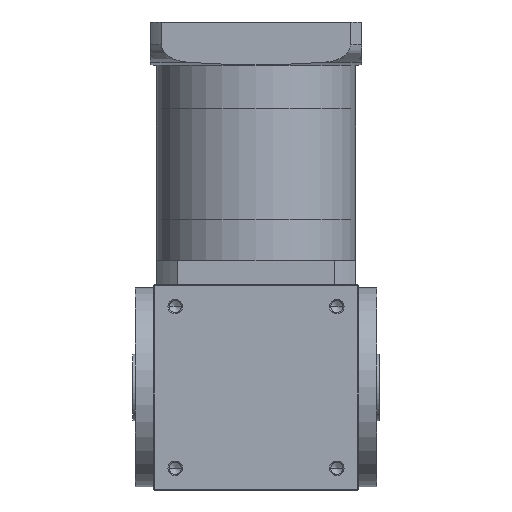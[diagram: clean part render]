
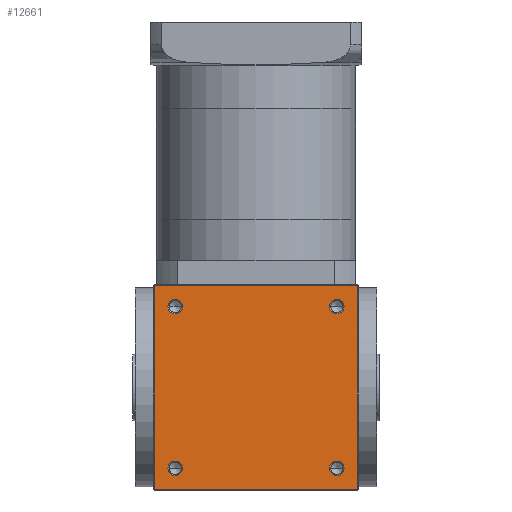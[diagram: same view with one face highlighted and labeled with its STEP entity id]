
A CAD part, front view. The second image highlights one B-rep face of the part: STEP entity #12661.
In plain terms, the highlighted planar face has unit normal (0, -1, 0).
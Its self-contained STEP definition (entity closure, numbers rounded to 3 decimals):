
#258 = CARTESIAN_POINT ( 'NONE',  ( -67., -85., 152. ) ) ;
#1422 = DIRECTION ( 'NONE',  ( 0., 0., -1. ) ) ;
#1665 = VERTEX_POINT ( 'NONE', #22798 ) ;
#1965 = VECTOR ( 'NONE', #7505, 1000. ) ;
#2026 = ORIENTED_EDGE ( 'NONE', *, *, #8068, .F. ) ;
#2536 = DIRECTION ( 'NONE',  ( 0., 0., -1. ) ) ;
#2670 = DIRECTION ( 'NONE',  ( 0., -1., 0. ) ) ;
#2716 = CARTESIAN_POINT ( 'NONE',  ( 67., -85., 18. ) ) ;
#4101 = ORIENTED_EDGE ( 'NONE', *, *, #16817, .F. ) ;
#4370 = DIRECTION ( 'NONE',  ( 0., 0., -1. ) ) ;
#4510 = CARTESIAN_POINT ( 'NONE',  ( -67., -85., 158.025 ) ) ;
#4889 = EDGE_LOOP ( 'NONE', ( #26980, #28470 ) ) ;
#6053 = AXIS2_PLACEMENT_3D ( 'NONE', #46054, #21484, #50064 ) ;
#7505 = DIRECTION ( 'NONE',  ( 1., 0., 0. ) ) ;
#7572 = CARTESIAN_POINT ( 'NONE',  ( -85., -85., 170. ) ) ;
#8068 = EDGE_CURVE ( 'NONE', #1665, #49674, #43160, .T. ) ;
#8734 = ORIENTED_EDGE ( 'NONE', *, *, #44866, .F. ) ;
#8948 = CARTESIAN_POINT ( 'NONE',  ( -84.5, -85., 170. ) ) ;
#9083 = CIRCLE ( 'NONE', #42675, 6.025 ) ;
#9862 = DIRECTION ( 'NONE',  ( -1., 0., 0. ) ) ;
#11919 = CARTESIAN_POINT ( 'NONE',  ( 67., -85., 145.975 ) ) ;
#12268 = CIRCLE ( 'NONE', #14313, 6.025 ) ;
#12564 = EDGE_LOOP ( 'NONE', ( #48331, #17233 ) ) ;
#12661 = ADVANCED_FACE ( 'NONE', ( #27186, #27284, #26898, #26840, #27340 ), #15922, .F. ) ;
#13181 = CIRCLE ( 'NONE', #21362, 6.025 ) ;
#13502 = ORIENTED_EDGE ( 'NONE', *, *, #28982, .F. ) ;
#14118 = CARTESIAN_POINT ( 'NONE',  ( 67., -85., 152. ) ) ;
#14288 = AXIS2_PLACEMENT_3D ( 'NONE', #14118, #42940, #18298 ) ;
#14313 = AXIS2_PLACEMENT_3D ( 'NONE', #50655, #26265, #1422 ) ;
#15534 = EDGE_LOOP ( 'NONE', ( #4101, #2026 ) ) ;
#15588 = LINE ( 'NONE', #32244, #1965 ) ;
#15867 = VERTEX_POINT ( 'NONE', #18778 ) ;
#15922 = PLANE ( 'NONE',  #33427 ) ;
#16259 = CARTESIAN_POINT ( 'NONE',  ( -67., -85., 152. ) ) ;
#16817 = EDGE_CURVE ( 'NONE', #49674, #1665, #40582, .T. ) ;
#17052 = EDGE_CURVE ( 'NONE', #46405, #32741, #52078, .T. ) ;
#17233 = ORIENTED_EDGE ( 'NONE', *, *, #51448, .F. ) ;
#17532 = CIRCLE ( 'NONE', #6053, 6.025 ) ;
#18298 = DIRECTION ( 'NONE',  ( 0., 0., -1. ) ) ;
#18778 = CARTESIAN_POINT ( 'NONE',  ( -84.5, -85., 169.5 ) ) ;
#18992 = CARTESIAN_POINT ( 'NONE',  ( 67., -85., 152. ) ) ;
#20241 = CARTESIAN_POINT ( 'NONE',  ( 84.5, -85., 170. ) ) ;
#20468 = DIRECTION ( 'NONE',  ( 0., 0., -1. ) ) ;
#20774 = ORIENTED_EDGE ( 'NONE', *, *, #48022, .F. ) ;
#21362 = AXIS2_PLACEMENT_3D ( 'NONE', #16259, #45067, #20468 ) ;
#21484 = DIRECTION ( 'NONE',  ( 0., -1., 0. ) ) ;
#21576 = EDGE_LOOP ( 'NONE', ( #8734, #26158, #44573, #13502 ) ) ;
#22306 = VERTEX_POINT ( 'NONE', #4510 ) ;
#22798 = CARTESIAN_POINT ( 'NONE',  ( 67., -85., 24.025 ) ) ;
#23162 = DIRECTION ( 'NONE',  ( 0., 0., -1. ) ) ;
#24425 = DIRECTION ( 'NONE',  ( 0., 0., -1. ) ) ;
#25078 = DIRECTION ( 'NONE',  ( 0., 1., 0. ) ) ;
#25547 = CARTESIAN_POINT ( 'NONE',  ( -67., -85., 24.025 ) ) ;
#25838 = DIRECTION ( 'NONE',  ( 0., 0., 1. ) ) ;
#26013 = CARTESIAN_POINT ( 'NONE',  ( -67., -85., 11.975 ) ) ;
#26093 = EDGE_CURVE ( 'NONE', #39179, #26573, #34452, .T. ) ;
#26158 = ORIENTED_EDGE ( 'NONE', *, *, #26093, .F. ) ;
#26265 = DIRECTION ( 'NONE',  ( 0., -1., 0. ) ) ;
#26573 = VERTEX_POINT ( 'NONE', #53015 ) ;
#26796 = EDGE_CURVE ( 'NONE', #34701, #47419, #12268, .T. ) ;
#26840 = FACE_BOUND ( 'NONE', #4889, .T. ) ;
#26898 = FACE_BOUND ( 'NONE', #15534, .T. ) ;
#26980 = ORIENTED_EDGE ( 'NONE', *, *, #50435, .F. ) ;
#27186 = FACE_BOUND ( 'NONE', #12564, .T. ) ;
#27284 = FACE_BOUND ( 'NONE', #42305, .T. ) ;
#27340 = FACE_OUTER_BOUND ( 'NONE', #21576, .T. ) ;
#28357 = VECTOR ( 'NONE', #9862, 1000. ) ;
#28470 = ORIENTED_EDGE ( 'NONE', *, *, #26796, .F. ) ;
#28982 = EDGE_CURVE ( 'NONE', #41110, #15867, #48244, .T. ) ;
#29190 = DIRECTION ( 'NONE',  ( 0., -1., 0. ) ) ;
#30638 = ORIENTED_EDGE ( 'NONE', *, *, #17052, .F. ) ;
#30936 = LINE ( 'NONE', #42858, #28357 ) ;
#32244 = CARTESIAN_POINT ( 'NONE',  ( -85., -85., 169.5 ) ) ;
#32741 = VERTEX_POINT ( 'NONE', #11919 ) ;
#32840 = DIRECTION ( 'NONE',  ( 0., 0., -1. ) ) ;
#32879 = DIRECTION ( 'NONE',  ( 0., -1., 0. ) ) ;
#33008 = CARTESIAN_POINT ( 'NONE',  ( 67., -85., 18. ) ) ;
#33427 = AXIS2_PLACEMENT_3D ( 'NONE', #7572, #25078, #46805 ) ;
#33952 = CARTESIAN_POINT ( 'NONE',  ( 84.5, -85., 169.5 ) ) ;
#34452 = LINE ( 'NONE', #20241, #46361 ) ;
#34701 = VERTEX_POINT ( 'NONE', #25547 ) ;
#36115 = VECTOR ( 'NONE', #25838, 1000. ) ;
#36618 = AXIS2_PLACEMENT_3D ( 'NONE', #2716, #2670, #2536 ) ;
#36993 = CIRCLE ( 'NONE', #14288, 6.025 ) ;
#38330 = AXIS2_PLACEMENT_3D ( 'NONE', #18992, #47688, #23162 ) ;
#39179 = VERTEX_POINT ( 'NONE', #33952 ) ;
#39832 = CARTESIAN_POINT ( 'NONE',  ( -84.5, -85., 0.5 ) ) ;
#40582 = CIRCLE ( 'NONE', #36618, 6.025 ) ;
#41110 = VERTEX_POINT ( 'NONE', #39832 ) ;
#41203 = CARTESIAN_POINT ( 'NONE',  ( 67., -85., 158.025 ) ) ;
#42305 = EDGE_LOOP ( 'NONE', ( #20774, #30638 ) ) ;
#42675 = AXIS2_PLACEMENT_3D ( 'NONE', #258, #29190, #4370 ) ;
#42858 = CARTESIAN_POINT ( 'NONE',  ( -85., -85., 0.5 ) ) ;
#42940 = DIRECTION ( 'NONE',  ( 0., -1., 0. ) ) ;
#43160 = CIRCLE ( 'NONE', #43985, 6.025 ) ;
#43468 = CARTESIAN_POINT ( 'NONE',  ( 67., -85., 11.975 ) ) ;
#43985 = AXIS2_PLACEMENT_3D ( 'NONE', #33008, #32879, #32840 ) ;
#44573 = ORIENTED_EDGE ( 'NONE', *, *, #50820, .F. ) ;
#44866 = EDGE_CURVE ( 'NONE', #26573, #41110, #30936, .T. ) ;
#45067 = DIRECTION ( 'NONE',  ( 0., -1., 0. ) ) ;
#45817 = VERTEX_POINT ( 'NONE', #46821 ) ;
#46054 = CARTESIAN_POINT ( 'NONE',  ( -67., -85., 18. ) ) ;
#46361 = VECTOR ( 'NONE', #24425, 1000. ) ;
#46405 = VERTEX_POINT ( 'NONE', #41203 ) ;
#46805 = DIRECTION ( 'NONE',  ( 0., 0., 1. ) ) ;
#46821 = CARTESIAN_POINT ( 'NONE',  ( -67., -85., 145.975 ) ) ;
#47419 = VERTEX_POINT ( 'NONE', #26013 ) ;
#47688 = DIRECTION ( 'NONE',  ( 0., -1., 0. ) ) ;
#48022 = EDGE_CURVE ( 'NONE', #32741, #46405, #36993, .T. ) ;
#48244 = LINE ( 'NONE', #8948, #36115 ) ;
#48331 = ORIENTED_EDGE ( 'NONE', *, *, #50909, .F. ) ;
#49674 = VERTEX_POINT ( 'NONE', #43468 ) ;
#50064 = DIRECTION ( 'NONE',  ( 0., 0., -1. ) ) ;
#50435 = EDGE_CURVE ( 'NONE', #47419, #34701, #17532, .T. ) ;
#50655 = CARTESIAN_POINT ( 'NONE',  ( -67., -85., 18. ) ) ;
#50820 = EDGE_CURVE ( 'NONE', #15867, #39179, #15588, .T. ) ;
#50909 = EDGE_CURVE ( 'NONE', #45817, #22306, #9083, .T. ) ;
#51448 = EDGE_CURVE ( 'NONE', #22306, #45817, #13181, .T. ) ;
#52078 = CIRCLE ( 'NONE', #38330, 6.025 ) ;
#53015 = CARTESIAN_POINT ( 'NONE',  ( 84.5, -85., 0.5 ) ) ;
